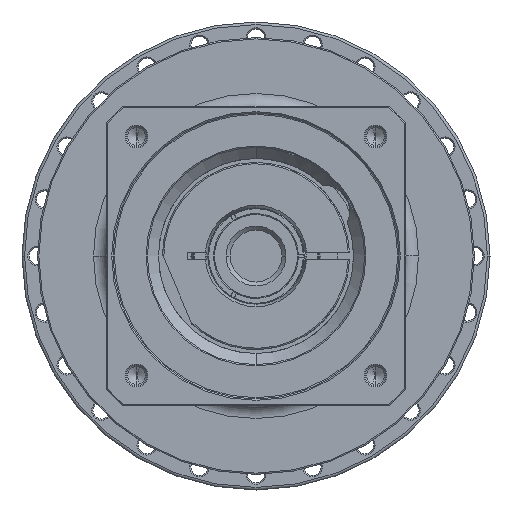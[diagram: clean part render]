
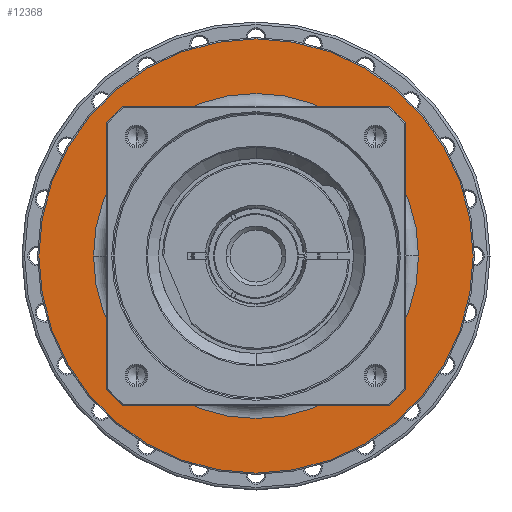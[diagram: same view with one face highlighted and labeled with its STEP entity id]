
A CAD part, left-side view. The second image highlights one B-rep face of the part: STEP entity #12368.
In plain terms, the highlighted planar face has unit normal (-1, 0, 0) as drawn and (1, 0, 0) by its records, which use the part's own axes.
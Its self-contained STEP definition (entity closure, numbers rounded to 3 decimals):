
#11847=CARTESIAN_POINT('',(-10.5,0.,0.));
#11848=DIRECTION('',(-1.,0.,0.));
#11849=DIRECTION('',(0.,-1.,0.));
#11850=AXIS2_PLACEMENT_3D('',#11847,#11848,#11849);
#11852=CARTESIAN_POINT('',(-10.5,0.,0.));
#11853=DIRECTION('',(-1.,0.,0.));
#11854=DIRECTION('',(0.,1.,0.));
#11855=AXIS2_PLACEMENT_3D('',#11852,#11853,#11854);
#11857=CARTESIAN_POINT('',(-10.5,0.,0.));
#11858=DIRECTION('',(-1.,0.,0.));
#11859=DIRECTION('',(0.,-1.,0.));
#11860=AXIS2_PLACEMENT_3D('',#11857,#11858,#11859);
#11862=CARTESIAN_POINT('',(-10.5,0.,0.));
#11863=DIRECTION('',(-1.,0.,0.));
#11864=DIRECTION('',(0.,1.,0.));
#11865=AXIS2_PLACEMENT_3D('',#11862,#11863,#11864);
#11931=CARTESIAN_POINT('',(-10.5,-83.5,0.));
#11932=CARTESIAN_POINT('',(-10.5,83.5,0.));
#11933=VERTEX_POINT('',#11931);
#11934=VERTEX_POINT('',#11932);
#11955=CARTESIAN_POINT('',(-10.5,-62.5,0.));
#11956=CARTESIAN_POINT('',(-10.5,62.5,0.));
#11957=VERTEX_POINT('',#11955);
#11958=VERTEX_POINT('',#11956);
#12353=CARTESIAN_POINT('',(-10.5,0.,0.));
#12354=DIRECTION('',(1.,0.,0.));
#12355=DIRECTION('',(0.,-1.,0.));
#12356=AXIS2_PLACEMENT_3D('',#12353,#12354,#12355);
#12357=PLANE('',#12356);
#12358=ORIENTED_EDGE('',*,*,#12294,.T.);
#12359=ORIENTED_EDGE('',*,*,#12309,.T.);
#12360=EDGE_LOOP('',(#12358,#12359));
#12361=FACE_OUTER_BOUND('',#12360,.F.);
#12363=ORIENTED_EDGE('',*,*,#12362,.F.);
#12365=ORIENTED_EDGE('',*,*,#12364,.F.);
#12366=EDGE_LOOP('',(#12363,#12365));
#12367=FACE_BOUND('',#12366,.F.);
#12368=ADVANCED_FACE('',(#12361,#12367),#12357,.T.);
#11851=CIRCLE('',#11850,62.5);
#11856=CIRCLE('',#11855,62.5);
#11861=CIRCLE('',#11860,83.5);
#11866=CIRCLE('',#11865,83.5);
#12294=EDGE_CURVE('',#11933,#11934,#11861,.T.);
#12309=EDGE_CURVE('',#11934,#11933,#11866,.T.);
#12362=EDGE_CURVE('',#11957,#11958,#11851,.T.);
#12364=EDGE_CURVE('',#11958,#11957,#11856,.T.);
